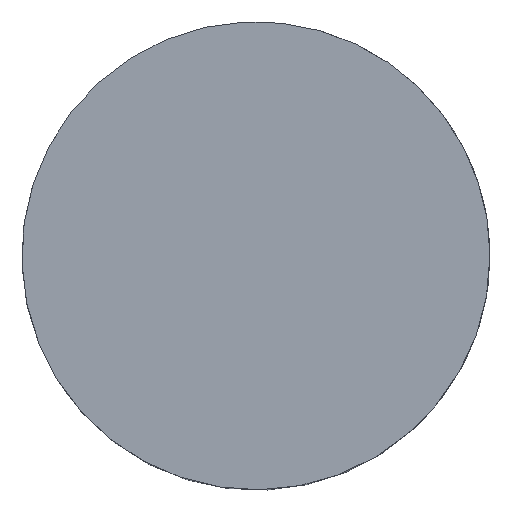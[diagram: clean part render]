
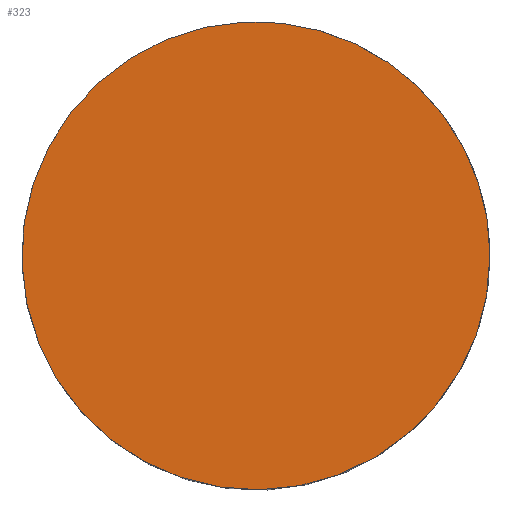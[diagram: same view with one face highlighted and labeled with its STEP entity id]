
A CAD part, top view. The second image highlights one B-rep face of the part: STEP entity #323.
In plain terms, the highlighted planar face has unit normal (0, 0, 1).
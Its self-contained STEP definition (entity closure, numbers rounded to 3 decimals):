
#32=PLANE('',#381);
#83=FACE_OUTER_BOUND('',#135,.T.);
#135=EDGE_LOOP('',(#278));
#164=CIRCLE('',#380,25.75);
#192=VERTEX_POINT('',#582);
#222=EDGE_CURVE('',#192,#192,#164,.T.);
#278=ORIENTED_EDGE('',*,*,#222,.T.);
#323=ADVANCED_FACE('',(#83),#32,.T.);
#380=AXIS2_PLACEMENT_3D('',#583,#493,#494);
#381=AXIS2_PLACEMENT_3D('',#584,#495,#496);
#493=DIRECTION('center_axis',(0.,0.,1.));
#494=DIRECTION('ref_axis',(-1.,0.,0.));
#495=DIRECTION('center_axis',(0.,0.,1.));
#496=DIRECTION('ref_axis',(1.,0.,0.));
#582=CARTESIAN_POINT('',(25.75,0.,32.));
#583=CARTESIAN_POINT('Origin',(0.,0.,32.));
#584=CARTESIAN_POINT('Origin',(0.,0.,32.));
